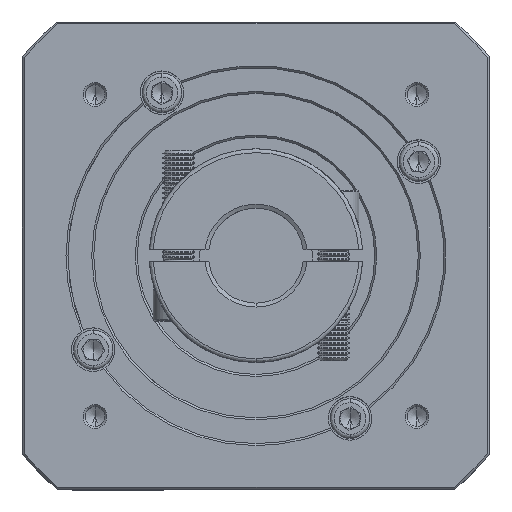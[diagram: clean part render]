
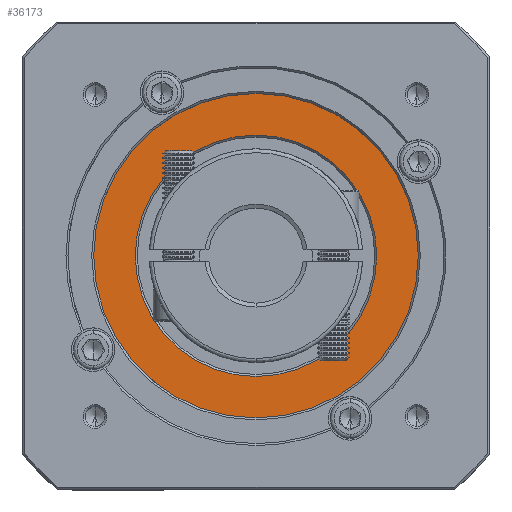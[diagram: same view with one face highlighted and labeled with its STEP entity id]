
A CAD part, top view. The second image highlights one B-rep face of the part: STEP entity #36173.
In plain terms, the highlighted planar face has unit normal (0, 0, 1).
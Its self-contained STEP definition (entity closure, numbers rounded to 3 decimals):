
#10487 = VERTEX_POINT ( 'NONE', #79285 ) ;
#15123 = CARTESIAN_POINT ( 'NONE',  ( 48.659, 66.552, -31.596 ) ) ;
#16063 = VERTEX_POINT ( 'NONE', #29909 ) ;
#16442 = DIRECTION ( 'NONE',  ( 0., 0., 1. ) ) ;
#20493 = CARTESIAN_POINT ( 'NONE',  ( 48.659, 66.552, -31.596 ) ) ;
#26386 = CIRCLE ( 'NONE', #71130, 30.5 ) ;
#28821 = CIRCLE ( 'NONE', #92895, 30.5 ) ;
#29077 = DIRECTION ( 'NONE',  ( 0., -1., 0. ) ) ;
#29357 = ORIENTED_EDGE ( 'NONE', *, *, #116746, .T. ) ;
#29909 = CARTESIAN_POINT ( 'NONE',  ( 48.659, 25.552, -31.596 ) ) ;
#32718 = AXIS2_PLACEMENT_3D ( 'NONE', #82899, #112440, #61813 ) ;
#35885 = ORIENTED_EDGE ( 'NONE', *, *, #58480, .T. ) ;
#36173 = ADVANCED_FACE ( 'NONE', ( #39761, #84770 ), #131210, .T. ) ;
#38456 = CARTESIAN_POINT ( 'NONE',  ( 48.659, 66.552, -31.596 ) ) ;
#39761 = FACE_OUTER_BOUND ( 'NONE', #129885, .T. ) ;
#47114 = ORIENTED_EDGE ( 'NONE', *, *, #92218, .T. ) ;
#52257 = CARTESIAN_POINT ( 'NONE',  ( 48.659, 107.552, -31.596 ) ) ;
#52418 = CIRCLE ( 'NONE', #32718, 41. ) ;
#58480 = EDGE_CURVE ( 'NONE', #110527, #10487, #28821, .T. ) ;
#61813 = DIRECTION ( 'NONE',  ( 0., -1., 0. ) ) ;
#65312 = ORIENTED_EDGE ( 'NONE', *, *, #93860, .T. ) ;
#66638 = DIRECTION ( 'NONE',  ( 0., 0., 1. ) ) ;
#67531 = DIRECTION ( 'NONE',  ( 0., -1., 0. ) ) ;
#69814 = CARTESIAN_POINT ( 'NONE',  ( 48.659, 66.552, -31.596 ) ) ;
#71130 = AXIS2_PLACEMENT_3D ( 'NONE', #20493, #131728, #101663 ) ;
#72339 = AXIS2_PLACEMENT_3D ( 'NONE', #15123, #66638, #67531 ) ;
#79285 = CARTESIAN_POINT ( 'NONE',  ( 48.659, 97.052, -31.596 ) ) ;
#82899 = CARTESIAN_POINT ( 'NONE',  ( 48.659, 66.552, -31.596 ) ) ;
#84770 = FACE_BOUND ( 'NONE', #98044, .T. ) ;
#88127 = DIRECTION ( 'NONE',  ( 0., -1., 0. ) ) ;
#92218 = EDGE_CURVE ( 'NONE', #10487, #110527, #26386, .T. ) ;
#92895 = AXIS2_PLACEMENT_3D ( 'NONE', #38456, #120574, #29077 ) ;
#93860 = EDGE_CURVE ( 'NONE', #94275, #16063, #109168, .T. ) ;
#94275 = VERTEX_POINT ( 'NONE', #52257 ) ;
#94871 = AXIS2_PLACEMENT_3D ( 'NONE', #69814, #16442, #88127 ) ;
#98044 = EDGE_LOOP ( 'NONE', ( #35885, #47114 ) ) ;
#101663 = DIRECTION ( 'NONE',  ( 0., -1., 0. ) ) ;
#109168 = CIRCLE ( 'NONE', #72339, 41. ) ;
#110527 = VERTEX_POINT ( 'NONE', #111604 ) ;
#111604 = CARTESIAN_POINT ( 'NONE',  ( 48.659, 36.052, -31.596 ) ) ;
#112440 = DIRECTION ( 'NONE',  ( 0., 0., 1. ) ) ;
#116746 = EDGE_CURVE ( 'NONE', #16063, #94275, #52418, .T. ) ;
#120574 = DIRECTION ( 'NONE',  ( 0., 0., -1. ) ) ;
#129885 = EDGE_LOOP ( 'NONE', ( #29357, #65312 ) ) ;
#131210 = PLANE ( 'NONE',  #94871 ) ;
#131728 = DIRECTION ( 'NONE',  ( 0., 0., -1. ) ) ;
